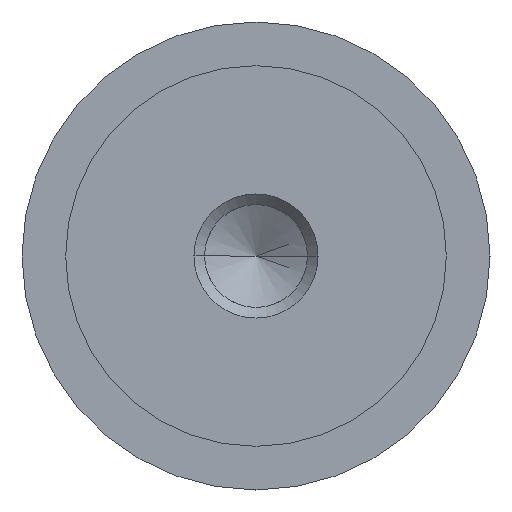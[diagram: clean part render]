
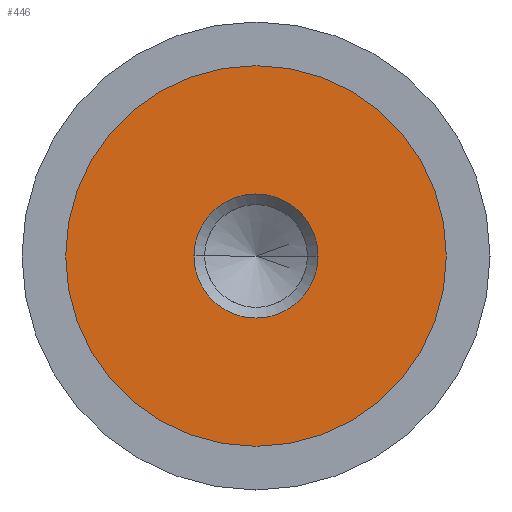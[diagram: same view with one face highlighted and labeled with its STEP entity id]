
A CAD part, left-side view. The second image highlights one B-rep face of the part: STEP entity #446.
In plain terms, the highlighted planar face has unit normal (-1, 0, 0).
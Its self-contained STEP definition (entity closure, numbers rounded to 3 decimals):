
#17 = EDGE_CURVE ( 'NONE', #275, #662, #59, .T. ) ;
#40 = EDGE_LOOP ( 'NONE', ( #264, #651 ) ) ;
#59 = CIRCLE ( 'NONE', #199, 1.99 ) ;
#73 = CARTESIAN_POINT ( 'NONE',  ( -9.99, 0., 0. ) ) ;
#97 = CIRCLE ( 'NONE', #287, 6.1 ) ;
#99 = CIRCLE ( 'NONE', #372, 1.99 ) ;
#113 = EDGE_LOOP ( 'NONE', ( #459, #778 ) ) ;
#193 = DIRECTION ( 'NONE',  ( 0., 0., -1. ) ) ;
#195 = PLANE ( 'NONE',  #396 ) ;
#199 = AXIS2_PLACEMENT_3D ( 'NONE', #241, #369, #485 ) ;
#221 = VERTEX_POINT ( 'NONE', #491 ) ;
#229 = EDGE_CURVE ( 'NONE', #662, #275, #99, .T. ) ;
#241 = CARTESIAN_POINT ( 'NONE',  ( -9.99, 0., 0. ) ) ;
#250 = DIRECTION ( 'NONE',  ( -1., 0., 0. ) ) ;
#264 = ORIENTED_EDGE ( 'NONE', *, *, #229, .T. ) ;
#268 = CIRCLE ( 'NONE', #747, 6.1 ) ;
#275 = VERTEX_POINT ( 'NONE', #587 ) ;
#287 = AXIS2_PLACEMENT_3D ( 'NONE', #73, #671, #327 ) ;
#314 = FACE_OUTER_BOUND ( 'NONE', #113, .T. ) ;
#327 = DIRECTION ( 'NONE',  ( 0., 0., 1. ) ) ;
#369 = DIRECTION ( 'NONE',  ( 1., 0., 0. ) ) ;
#372 = AXIS2_PLACEMENT_3D ( 'NONE', #385, #561, #193 ) ;
#373 = VERTEX_POINT ( 'NONE', #426 ) ;
#385 = CARTESIAN_POINT ( 'NONE',  ( -9.99, 0., 0. ) ) ;
#396 = AXIS2_PLACEMENT_3D ( 'NONE', #681, #612, #550 ) ;
#426 = CARTESIAN_POINT ( 'NONE',  ( -9.99, 0., -6.1 ) ) ;
#434 = CARTESIAN_POINT ( 'NONE',  ( -9.99, 0., 0. ) ) ;
#437 = EDGE_CURVE ( 'NONE', #221, #373, #97, .T. ) ;
#446 = ADVANCED_FACE ( 'NONE', ( #737, #314 ), #195, .F. ) ;
#459 = ORIENTED_EDGE ( 'NONE', *, *, #437, .T. ) ;
#485 = DIRECTION ( 'NONE',  ( 0., 0., -1. ) ) ;
#491 = CARTESIAN_POINT ( 'NONE',  ( -9.99, 0., 6.1 ) ) ;
#549 = DIRECTION ( 'NONE',  ( 0., 0., 1. ) ) ;
#550 = DIRECTION ( 'NONE',  ( 0., 0., -1. ) ) ;
#561 = DIRECTION ( 'NONE',  ( 1., 0., 0. ) ) ;
#587 = CARTESIAN_POINT ( 'NONE',  ( -9.99, 1.99, 0. ) ) ;
#597 = CARTESIAN_POINT ( 'NONE',  ( -9.99, -1.99, 0. ) ) ;
#612 = DIRECTION ( 'NONE',  ( 1., 0., 0. ) ) ;
#651 = ORIENTED_EDGE ( 'NONE', *, *, #17, .T. ) ;
#662 = VERTEX_POINT ( 'NONE', #597 ) ;
#671 = DIRECTION ( 'NONE',  ( -1., 0., 0. ) ) ;
#681 = CARTESIAN_POINT ( 'NONE',  ( -9.99, 6.1, 0. ) ) ;
#737 = FACE_BOUND ( 'NONE', #40, .T. ) ;
#747 = AXIS2_PLACEMENT_3D ( 'NONE', #434, #250, #549 ) ;
#765 = EDGE_CURVE ( 'NONE', #373, #221, #268, .T. ) ;
#778 = ORIENTED_EDGE ( 'NONE', *, *, #765, .T. ) ;
